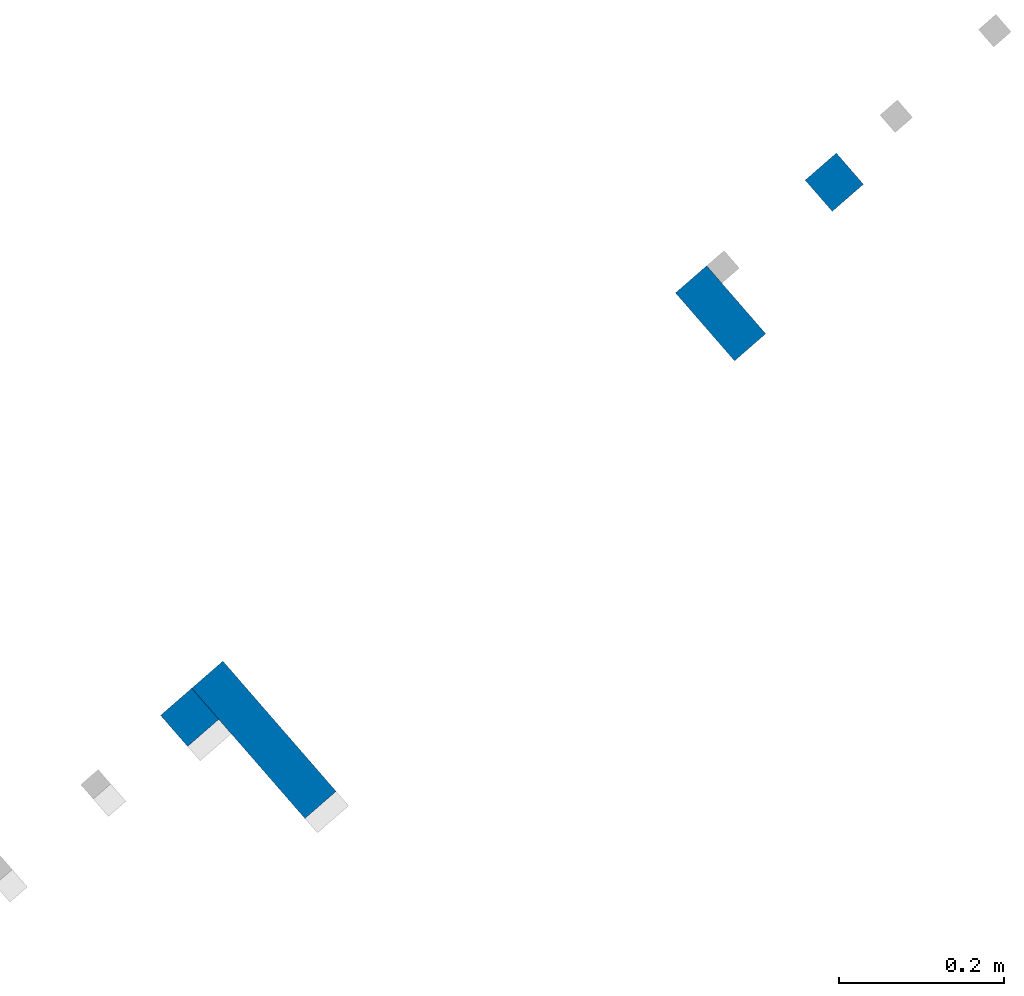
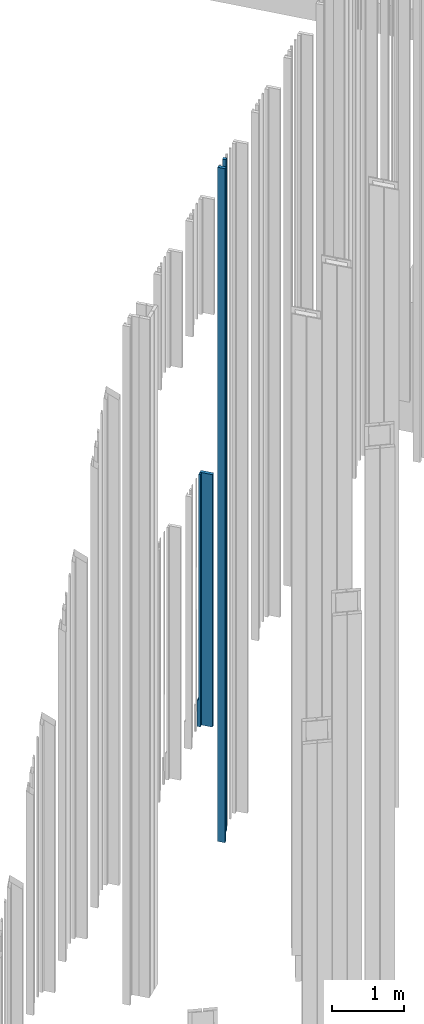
# One storey, part 258 of 390: 4 walls.
"""IFC2X3 building model written with IfcOpenShell, lengths in millimetres."""

from ifc_helpers import new_model, entity, si_unit, converted_unit, derived_unit, money_unit, direction, frame, origin_with_axes, place, context, subcontext, project, spatial, faceted_brep, material, type_object, element, save


model = new_model("IFC2X3")

# Units and contexts
model_context = context("Model", 3, precision=1e-05, world=origin_with_axes(), true_north=direction((0.0, 1.0)))
body_context = subcontext(model_context, "Body", "Model", "MODEL_VIEW")
ifc_project = project(units=[si_unit("LENGTHUNIT", "METRE", prefix="MILLI"), si_unit("AREAUNIT", "SQUARE_METRE"), si_unit("VOLUMEUNIT", "CUBIC_METRE"), converted_unit("PLANEANGLEUNIT", "DEGREE", entity("IfcPlaneAngleMeasure", 0.0174532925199), si_unit("PLANEANGLEUNIT", "RADIAN"), dimensions=[0, 0, 0, 0, 0, 0, 0]), si_unit("SOLIDANGLEUNIT", "STERADIAN"), money_unit("EUR"), converted_unit("TIMEUNIT", "Year", entity("IfcTimeMeasure", 31556926.0), si_unit("TIMEUNIT", "SECOND"), dimensions=[0, 0, 1, 0, 0, 0, 0]), si_unit("MASSUNIT", "GRAM", prefix="KILO"), si_unit("THERMODYNAMICTEMPERATUREUNIT", "DEGREE_CELSIUS"), si_unit("LUMINOUSINTENSITYUNIT", "LUMEN"), si_unit("ENERGYUNIT", "JOULE", prefix="MEGA"), derived_unit("THERMALCONDUCTANCEUNIT", [(si_unit("POWERUNIT", "WATT"), 1), (si_unit("LENGTHUNIT", "METRE"), -1), (si_unit("THERMODYNAMICTEMPERATUREUNIT", "KELVIN"), -1)]), derived_unit("SPECIFICHEATCAPACITYUNIT", [(si_unit("ENERGYUNIT", "JOULE"), 1), (si_unit("MASSUNIT", "GRAM", prefix="KILO"), -1), (si_unit("THERMODYNAMICTEMPERATUREUNIT", "KELVIN"), -1)]), derived_unit("MASSDENSITYUNIT", [(si_unit("MASSUNIT", "GRAM", prefix="KILO"), 1), (si_unit("VOLUMEUNIT", "CUBIC_METRE"), -1)])], contexts=[model_context])

# Site, building, storey
site_placement = place(None, origin_with_axes())
site = spatial("IfcSite", under=ifc_project, at=site_placement, Name="Site", CompositionType="ELEMENT")
building_placement = place(site_placement, origin_with_axes())
building = spatial("IfcBuilding", under=site, at=building_placement, Name="Building", CompositionType="ELEMENT")
storey_placement = place(building_placement, origin_with_axes())
storey = spatial("IfcBuildingStorey", under=building, at=storey_placement, Name="1 korrus", CompositionType="ELEMENT", Elevation=0.0)

# Walls
ifc_material = material(Name="Site specified")
wall_type = type_object("IfcWallType", Name="Puitfassaadi ribistik", PredefinedType="NOTDEFINED")
wall_1_placement = place(storey_placement, frame((165915.705381, 88819.8510552, -1539.29658167), z_axis=(0.0, 0.0, 1.0), x_axis=(-0.754709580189, -0.65605902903, 0.0)))
element("IfcWall", 1, at=wall_1_placement, inside=storey, type_object=wall_type, material=ifc_material, Name="Site specified", context=body_context, shape_type="Brep", body=[
    faceted_brep([(-25.0, -54.5, 11404.2965817), (-25.0, -54.5, 0.0), (25.0, -54.5, 0.0), (25.0, -54.5, 11404.2965817), (-25.0, 54.5, 11404.2965817), (-25.0, 54.5, 0.0), (25.0, 54.5, 0.0), (25.0, 54.5, 11404.2965817)], [[[0, 1, 2, 3]], [[4, 5, 1, 0]], [[2, 1, 5, 6]], [[3, 2, 6, 7]], [[4, 0, 3, 7]], [[7, 6, 5, 4]]]),
])
wall_2_placement = place(storey_placement, frame((165272.966117, 88330.6895192, 935.0), z_axis=(0.0, 0.0, 1.0), x_axis=(-0.754709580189, -0.65605902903, 0.0)))
element("IfcWall", 2, at=wall_2_placement, inside=storey, type_object=wall_type, material=ifc_material, Name="Site specified", context=body_context, shape_type="Brep", body=[
    faceted_brep([(-25.0, -25.0, 0.0), (-25.0, -25.0, 450.0), (-25.0, -2.00000104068, 450.0), (-25.0, -2.00000008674, 4271.0), (-25.0, 25.0, 4271.0), (-25.0, 25.0, 0.0), (25.0, -25.0, 0.0), (25.0, -25.0, 450.0), (25.0, -2.00000104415, 450.0), (25.0, -2.00000008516, 4271.0), (25.0, 25.0, 4271.0), (25.0, 25.0, 0.0)], [[[0, 1, 2, 3, 4, 5]], [[6, 7, 1, 0]], [[8, 2, 1, 7]], [[9, 3, 2, 8]], [[4, 3, 9, 10]], [[4, 10, 11, 5]], [[11, 6, 0, 5]], [[8, 7, 6, 11, 10, 9]]]),
])
wall_3_placement = place(storey_placement, frame((165362.858289, 88303.493059, 935.0), z_axis=(0.0, 0.0, 1.0), x_axis=(-0.754709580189, -0.65605902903, 0.0)))
element("IfcWall", 3, at=wall_3_placement, inside=storey, type_object=wall_type, material=ifc_material, Name="Site specified", context=body_context, shape_type="Brep", body=[
    faceted_brep([(-25.0, -104.5, 0.0), (-25.0, -104.5, 450.0), (-25.0, -81.5000010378, 450.0), (-25.0, -81.5000000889, 4271.0), (-25.0, 104.5, 4271.0), (-25.0, 104.5, 0.0), (25.0, -104.5, 0.0), (25.0, -104.5, 450.0), (25.0, -81.5000010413, 450.0), (25.0, -81.5000000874, 4271.0), (25.0, 104.5, 4271.0), (25.0, 104.5, 0.0)], [[[0, 1, 2, 3, 4, 5]], [[6, 7, 1, 0]], [[8, 2, 1, 7]], [[9, 3, 2, 8]], [[4, 3, 9, 10]], [[4, 10, 11, 5]], [[11, 6, 0, 5]], [[8, 7, 6, 11, 10, 9]]]),
])
wall_4_placement = place(storey_placement, frame((166053.331232, 88978.5752658, -1510.40940218), z_axis=(0.0, 0.0, 1.0), x_axis=(-0.754709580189, -0.65605902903, 0.0)))
element("IfcWall", 4, at=wall_4_placement, inside=storey, type_object=wall_type, material=ifc_material, Name="Site specified", context=body_context, shape_type="Brep", body=[
    faceted_brep([(-25.0, -25.0, 11375.4094022), (-25.0, -25.0, 0.0), (25.0, -25.0, 0.0), (25.0, -25.0, 11375.4094022), (-25.0, 25.0, 11375.4094022), (-25.0, 25.0, 0.0), (25.0, 25.0, 0.0), (25.0, 25.0, 11375.4094022)], [[[0, 1, 2, 3]], [[4, 5, 1, 0]], [[2, 1, 5, 6]], [[3, 2, 6, 7]], [[4, 0, 3, 7]], [[7, 6, 5, 4]]]),
])

save(model, "model.ifc")
